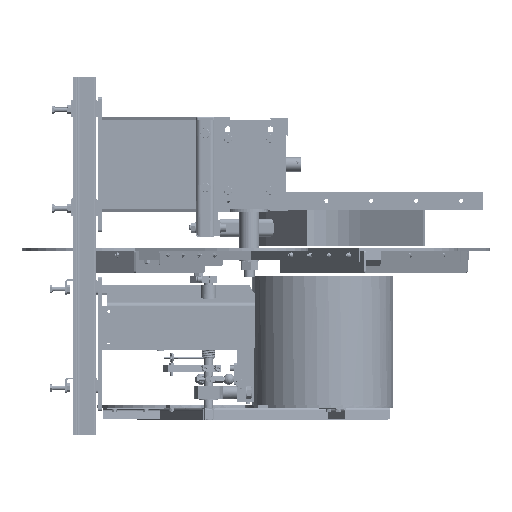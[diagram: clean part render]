
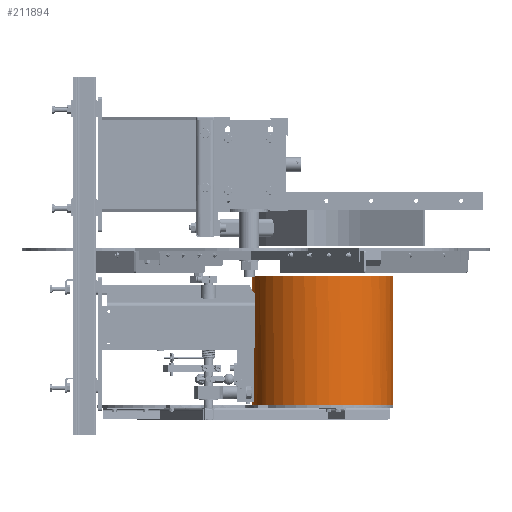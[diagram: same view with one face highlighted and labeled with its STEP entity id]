
A CAD part, front view. The second image highlights one B-rep face of the part: STEP entity #211894.
In plain terms, the highlighted cylindrical face has radius 157.5 mm (diameter 315 mm), a full revolution.
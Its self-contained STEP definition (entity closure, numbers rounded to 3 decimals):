
#682=ELLIPSE('',#222258,167.931,157.5);
#683=ELLIPSE('',#222260,167.931,157.5);
#688=ELLIPSE('',#222292,229.997,157.5);
#9117=LINE('',#290070,#19547);
#9143=LINE('',#290144,#19573);
#9150=LINE('',#290493,#19580);
#9151=LINE('',#290497,#19581);
#19547=VECTOR('',#241444,1000.);
#19573=VECTOR('',#241524,1000.);
#19580=VECTOR('',#241603,1000.);
#19581=VECTOR('',#241606,1000.);
#39163=ORIENTED_EDGE('',*,*,#77080,.F.);
#39164=ORIENTED_EDGE('',*,*,#77081,.F.);
#39165=ORIENTED_EDGE('',*,*,#77082,.T.);
#39166=ORIENTED_EDGE('',*,*,#77083,.F.);
#39167=ORIENTED_EDGE('',*,*,#77001,.T.);
#39168=ORIENTED_EDGE('',*,*,#76997,.F.);
#39169=ORIENTED_EDGE('',*,*,#77039,.T.);
#39170=ORIENTED_EDGE('',*,*,#77037,.T.);
#39171=ORIENTED_EDGE('',*,*,#77035,.T.);
#39172=ORIENTED_EDGE('',*,*,#77084,.T.);
#39173=ORIENTED_EDGE('',*,*,#77085,.F.);
#39174=ORIENTED_EDGE('',*,*,#77086,.F.);
#39175=ORIENTED_EDGE('',*,*,#77087,.F.);
#39176=ORIENTED_EDGE('',*,*,#77088,.F.);
#39177=ORIENTED_EDGE('',*,*,#77089,.F.);
#39178=ORIENTED_EDGE('',*,*,#77090,.F.);
#76997=EDGE_CURVE('',#96353,#96354,#9117,.T.);
#77001=EDGE_CURVE('',#96356,#96354,#108316,.T.);
#77035=EDGE_CURVE('',#96374,#96356,#9143,.T.);
#77037=EDGE_CURVE('',#96375,#96374,#682,.T.);
#77039=EDGE_CURVE('',#96353,#96375,#683,.T.);
#77080=EDGE_CURVE('',#96416,#96417,#688,.T.);
#77081=EDGE_CURVE('',#96418,#96416,#9150,.T.);
#77082=EDGE_CURVE('',#96418,#96419,#108344,.T.);
#77083=EDGE_CURVE('',#96417,#96419,#9151,.T.);
#77084=EDGE_CURVE('',#96420,#96420,#108345,.T.);
#77085=EDGE_CURVE('',#96421,#96422,#108346,.T.);
#77086=EDGE_CURVE('',#96423,#96421,#108347,.T.);
#77087=EDGE_CURVE('',#96424,#96423,#108348,.T.);
#77088=EDGE_CURVE('',#96425,#96424,#108349,.T.);
#77089=EDGE_CURVE('',#96426,#96425,#108350,.T.);
#77090=EDGE_CURVE('',#96422,#96426,#108351,.T.);
#96353=VERTEX_POINT('',#290071);
#96354=VERTEX_POINT('',#290072);
#96356=VERTEX_POINT('',#290079);
#96374=VERTEX_POINT('',#290145);
#96375=VERTEX_POINT('',#290149);
#96416=VERTEX_POINT('',#290491);
#96417=VERTEX_POINT('',#290492);
#96418=VERTEX_POINT('',#290494);
#96419=VERTEX_POINT('',#290496);
#96420=VERTEX_POINT('',#290499);
#96421=VERTEX_POINT('',#290501);
#96422=VERTEX_POINT('',#290502);
#96423=VERTEX_POINT('',#290504);
#96424=VERTEX_POINT('',#290506);
#96425=VERTEX_POINT('',#290508);
#96426=VERTEX_POINT('',#290510);
#108316=CIRCLE('',#222232,157.5);
#108344=CIRCLE('',#222293,157.5);
#108345=CIRCLE('',#222294,157.5);
#108346=CIRCLE('',#222295,157.5);
#108347=CIRCLE('',#222296,157.5);
#108348=CIRCLE('',#222297,157.5);
#108349=CIRCLE('',#222298,157.5);
#108350=CIRCLE('',#222299,157.5);
#108351=CIRCLE('',#222300,157.5);
#114966=EDGE_LOOP('',(#39163,#39164,#39165,#39166));
#114967=EDGE_LOOP('',(#39167,#39168,#39169,#39170,#39171));
#114968=EDGE_LOOP('',(#39172));
#114969=EDGE_LOOP('',(#39173,#39174,#39175,#39176,#39177,#39178));
#128140=FACE_BOUND('',#114966,.T.);
#128141=FACE_BOUND('',#114967,.T.);
#128142=FACE_BOUND('',#114968,.T.);
#128143=FACE_BOUND('',#114969,.T.);
#140209=CYLINDRICAL_SURFACE('',#222291,157.5);
#211894=ADVANCED_FACE('',(#128140,#128141,#128142,#128143),#140209,.T.);
#222232=AXIS2_PLACEMENT_3D('',#290078,#241451,#241452);
#222258=AXIS2_PLACEMENT_3D('',#290148,#241528,#241529);
#222260=AXIS2_PLACEMENT_3D('',#290152,#241533,#241534);
#222291=AXIS2_PLACEMENT_3D('',#290489,#241599,#241600);
#222292=AXIS2_PLACEMENT_3D('',#290490,#241601,#241602);
#222293=AXIS2_PLACEMENT_3D('',#290495,#241604,#241605);
#222294=AXIS2_PLACEMENT_3D('',#290498,#241607,#241608);
#222295=AXIS2_PLACEMENT_3D('',#290500,#241609,#241610);
#222296=AXIS2_PLACEMENT_3D('',#290503,#241611,#241612);
#222297=AXIS2_PLACEMENT_3D('',#290505,#241613,#241614);
#222298=AXIS2_PLACEMENT_3D('',#290507,#241615,#241616);
#222299=AXIS2_PLACEMENT_3D('',#290509,#241617,#241618);
#222300=AXIS2_PLACEMENT_3D('',#290511,#241619,#241620);
#241444=DIRECTION('',(0.,0.,-1.));
#241451=DIRECTION('',(0.,0.,-1.));
#241452=DIRECTION('',(-1.,0.,0.));
#241524=DIRECTION('',(0.,0.,-1.));
#241528=DIRECTION('',(0.,-0.347,0.938));
#241529=DIRECTION('',(0.,-0.938,-0.347));
#241533=DIRECTION('',(0.,0.347,0.938));
#241534=DIRECTION('',(0.,0.938,-0.347));
#241599=DIRECTION('',(0.,0.,-1.));
#241600=DIRECTION('',(0.,-1.,0.));
#241601=DIRECTION('',(0.685,-0.249,-0.685));
#241602=DIRECTION('',(0.643,-0.234,0.729));
#241603=DIRECTION('',(0.,0.,1.));
#241604=DIRECTION('',(0.,0.,-1.));
#241605=DIRECTION('',(0.,-1.,0.));
#241606=DIRECTION('',(0.,0.,-1.));
#241607=DIRECTION('',(0.,0.,-1.));
#241608=DIRECTION('',(0.,1.,0.));
#241609=DIRECTION('',(0.,0.,-1.));
#241610=DIRECTION('',(0.,1.,0.));
#241611=DIRECTION('',(0.,0.,-1.));
#241612=DIRECTION('',(0.,1.,0.));
#241613=DIRECTION('',(0.,0.,-1.));
#241614=DIRECTION('',(-1.,0.,0.));
#241615=DIRECTION('',(0.,0.,-1.));
#241616=DIRECTION('',(0.,1.,0.));
#241617=DIRECTION('',(0.,0.,-1.));
#241618=DIRECTION('',(0.,1.,0.));
#241619=DIRECTION('',(0.,0.,-1.));
#241620=DIRECTION('',(0.,1.,0.));
#290070=CARTESIAN_POINT('',(378.538,140.,-135.6));
#290071=CARTESIAN_POINT('',(378.538,140.,-180.397));
#290072=CARTESIAN_POINT('',(378.538,140.,-415.6));
#290078=CARTESIAN_POINT('',(530.802,99.726,-415.6));
#290079=CARTESIAN_POINT('',(378.394,60.,-415.6));
#290144=CARTESIAN_POINT('',(378.394,60.,-135.6));
#290145=CARTESIAN_POINT('',(378.394,60.,-180.397));
#290148=CARTESIAN_POINT('',(530.802,99.726,-165.701));
#290149=CARTESIAN_POINT('',(373.302,100.,-165.6));
#290152=CARTESIAN_POINT('',(530.802,99.726,-165.499));
#290489=CARTESIAN_POINT('',(530.802,99.726,-135.6));
#290490=CARTESIAN_POINT('',(530.802,99.726,-45.399));
#290491=CARTESIAN_POINT('',(379.867,144.726,-212.713));
#290492=CARTESIAN_POINT('',(405.178,194.726,-205.6));
#290493=CARTESIAN_POINT('',(379.867,144.726,-688.129));
#290494=CARTESIAN_POINT('',(379.867,144.726,-385.6));
#290495=CARTESIAN_POINT('',(530.802,99.726,-385.6));
#290496=CARTESIAN_POINT('',(405.178,194.726,-385.6));
#290497=CARTESIAN_POINT('',(405.178,194.726,-205.6));
#290498=CARTESIAN_POINT('',(530.802,99.726,-135.6));
#290499=CARTESIAN_POINT('',(530.802,257.226,-135.6));
#290500=CARTESIAN_POINT('',(530.802,99.726,-422.6));
#290501=CARTESIAN_POINT('',(611.15,235.189,-422.6));
#290502=CARTESIAN_POINT('',(660.695,188.799,-422.6));
#290503=CARTESIAN_POINT('',(530.802,99.726,-422.6));
#290504=CARTESIAN_POINT('',(373.889,113.316,-422.6));
#290505=CARTESIAN_POINT('',(530.802,99.726,-422.6));
#290506=CARTESIAN_POINT('',(395.87,18.487,-422.6));
#290507=CARTESIAN_POINT('',(530.802,99.726,-422.6));
#290508=CARTESIAN_POINT('',(399.695,12.449,-422.6));
#290509=CARTESIAN_POINT('',(530.802,99.726,-422.6));
#290510=CARTESIAN_POINT('',(403.267,7.307,-422.6));
#290511=CARTESIAN_POINT('',(530.802,99.726,-422.6));
